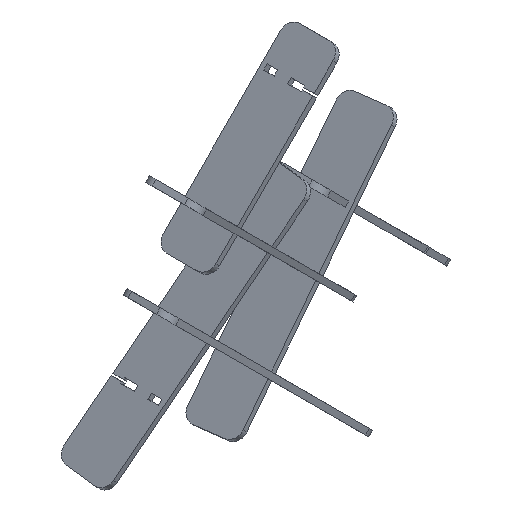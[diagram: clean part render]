
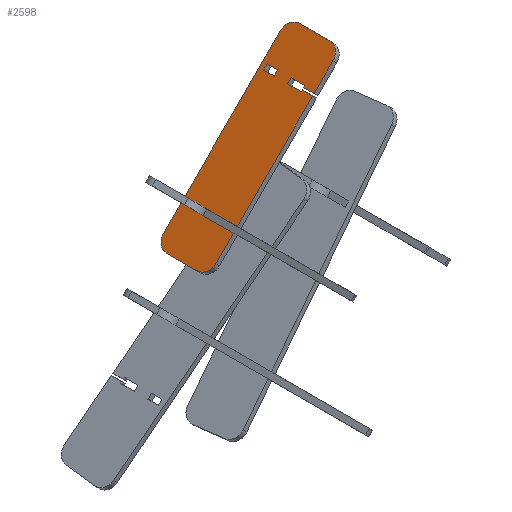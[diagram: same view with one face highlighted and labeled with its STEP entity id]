
A CAD part, isometric view. The second image highlights one B-rep face of the part: STEP entity #2598.
In plain terms, the highlighted planar face has unit normal (-0.707, 0, 0.707) as drawn and (0, 0, 1) by its records, which use the part's own axes.
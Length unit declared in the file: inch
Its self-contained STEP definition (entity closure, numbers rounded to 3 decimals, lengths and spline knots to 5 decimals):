
#61=FACE_BOUND('',#443,.T.);
#62=FACE_BOUND('',#444,.T.);
#176=PLANE('',#2824);
#302=FACE_OUTER_BOUND('',#442,.T.);
#442=EDGE_LOOP('',(#2429,#2430,#2431,#2432,#2433,#2434,#2435,#2436,#2437,
#2438,#2439,#2440,#2441,#2442,#2443,#2444,#2445,#2446,#2447,#2448,#2449,
#2450,#2451,#2452));
#443=EDGE_LOOP('',(#2453,#2454,#2455,#2456));
#444=EDGE_LOOP('',(#2457,#2458,#2459,#2460));
#723=LINE('',#4096,#1059);
#729=LINE('',#4111,#1065);
#732=LINE('',#4119,#1068);
#734=LINE('',#4124,#1070);
#736=LINE('',#4128,#1072);
#738=LINE('',#4132,#1074);
#740=LINE('',#4135,#1076);
#742=LINE('',#4140,#1078);
#744=LINE('',#4144,#1080);
#746=LINE('',#4148,#1082);
#748=LINE('',#4151,#1084);
#750=LINE('',#4156,#1086);
#752=LINE('',#4160,#1088);
#754=LINE('',#4164,#1090);
#756=LINE('',#4167,#1092);
#757=LINE('',#4169,#1093);
#758=LINE('',#4172,#1094);
#760=LINE('',#4176,#1096);
#762=LINE('',#4180,#1098);
#764=LINE('',#4184,#1100);
#766=LINE('',#4188,#1102);
#768=LINE('',#4192,#1104);
#770=LINE('',#4196,#1106);
#772=LINE('',#4200,#1108);
#774=LINE('',#4204,#1110);
#776=LINE('',#4208,#1112);
#778=LINE('',#4212,#1114);
#780=LINE('',#4215,#1116);
#1059=VECTOR('',#3349,0.3937);
#1065=VECTOR('',#3365,0.3937);
#1068=VECTOR('',#3374,0.3937);
#1070=VECTOR('',#3378,0.3937);
#1072=VECTOR('',#3382,0.3937);
#1074=VECTOR('',#3386,0.3937);
#1076=VECTOR('',#3390,0.3937);
#1078=VECTOR('',#3394,0.3937);
#1080=VECTOR('',#3398,0.3937);
#1082=VECTOR('',#3402,0.3937);
#1084=VECTOR('',#3406,0.3937);
#1086=VECTOR('',#3410,0.3937);
#1088=VECTOR('',#3414,0.3937);
#1090=VECTOR('',#3418,0.3937);
#1092=VECTOR('',#3422,0.3937);
#1093=VECTOR('',#3425,0.3937);
#1094=VECTOR('',#3428,0.3937);
#1096=VECTOR('',#3432,0.3937);
#1098=VECTOR('',#3436,0.3937);
#1100=VECTOR('',#3440,0.3937);
#1102=VECTOR('',#3444,0.3937);
#1104=VECTOR('',#3448,0.3937);
#1106=VECTOR('',#3452,0.3937);
#1108=VECTOR('',#3456,0.3937);
#1110=VECTOR('',#3460,0.3937);
#1112=VECTOR('',#3464,0.3937);
#1114=VECTOR('',#3468,0.3937);
#1116=VECTOR('',#3472,0.3937);
#1133=CIRCLE('',#2784,1.);
#1138=CIRCLE('',#2792,1.);
#1139=CIRCLE('',#2794,1.);
#1140=CIRCLE('',#2797,1.);
#1317=VERTEX_POINT('',#4024);
#1318=VERTEX_POINT('',#4025);
#1351=VERTEX_POINT('',#4095);
#1352=VERTEX_POINT('',#4099);
#1353=VERTEX_POINT('',#4103);
#1354=VERTEX_POINT('',#4104);
#1355=VERTEX_POINT('',#4109);
#1356=VERTEX_POINT('',#4113);
#1357=VERTEX_POINT('',#4114);
#1358=VERTEX_POINT('',#4121);
#1359=VERTEX_POINT('',#4123);
#1360=VERTEX_POINT('',#4127);
#1361=VERTEX_POINT('',#4131);
#1362=VERTEX_POINT('',#4137);
#1363=VERTEX_POINT('',#4139);
#1364=VERTEX_POINT('',#4143);
#1365=VERTEX_POINT('',#4147);
#1366=VERTEX_POINT('',#4153);
#1367=VERTEX_POINT('',#4155);
#1368=VERTEX_POINT('',#4159);
#1369=VERTEX_POINT('',#4163);
#1370=VERTEX_POINT('',#4171);
#1371=VERTEX_POINT('',#4175);
#1372=VERTEX_POINT('',#4179);
#1373=VERTEX_POINT('',#4183);
#1374=VERTEX_POINT('',#4187);
#1375=VERTEX_POINT('',#4191);
#1376=VERTEX_POINT('',#4195);
#1377=VERTEX_POINT('',#4199);
#1378=VERTEX_POINT('',#4203);
#1379=VERTEX_POINT('',#4207);
#1380=VERTEX_POINT('',#4211);
#1645=EDGE_CURVE('',#1317,#1318,#1133,.T.);
#1680=EDGE_CURVE('',#1351,#1318,#723,.T.);
#1682=EDGE_CURVE('',#1351,#1352,#1138,.T.);
#1684=EDGE_CURVE('',#1353,#1354,#1139,.T.);
#1688=EDGE_CURVE('',#1353,#1355,#729,.T.);
#1689=EDGE_CURVE('',#1356,#1357,#1140,.T.);
#1692=EDGE_CURVE('',#1317,#1357,#732,.T.);
#1694=EDGE_CURVE('',#1359,#1358,#734,.T.);
#1696=EDGE_CURVE('',#1360,#1359,#736,.T.);
#1698=EDGE_CURVE('',#1361,#1360,#738,.T.);
#1700=EDGE_CURVE('',#1358,#1361,#740,.T.);
#1702=EDGE_CURVE('',#1363,#1362,#742,.T.);
#1704=EDGE_CURVE('',#1364,#1363,#744,.T.);
#1706=EDGE_CURVE('',#1365,#1364,#746,.T.);
#1708=EDGE_CURVE('',#1362,#1365,#748,.T.);
#1710=EDGE_CURVE('',#1367,#1366,#750,.T.);
#1712=EDGE_CURVE('',#1368,#1367,#752,.T.);
#1714=EDGE_CURVE('',#1369,#1368,#754,.T.);
#1716=EDGE_CURVE('',#1355,#1369,#756,.T.);
#1717=EDGE_CURVE('',#1356,#1354,#757,.T.);
#1718=EDGE_CURVE('',#1370,#1352,#758,.T.);
#1720=EDGE_CURVE('',#1371,#1370,#760,.T.);
#1722=EDGE_CURVE('',#1372,#1371,#762,.T.);
#1724=EDGE_CURVE('',#1373,#1372,#764,.T.);
#1726=EDGE_CURVE('',#1374,#1373,#766,.T.);
#1728=EDGE_CURVE('',#1375,#1374,#768,.T.);
#1730=EDGE_CURVE('',#1376,#1375,#770,.T.);
#1732=EDGE_CURVE('',#1377,#1376,#772,.T.);
#1734=EDGE_CURVE('',#1378,#1377,#774,.T.);
#1736=EDGE_CURVE('',#1379,#1378,#776,.T.);
#1738=EDGE_CURVE('',#1380,#1379,#778,.T.);
#1740=EDGE_CURVE('',#1366,#1380,#780,.T.);
#2429=ORIENTED_EDGE('',*,*,#1645,.F.);
#2430=ORIENTED_EDGE('',*,*,#1692,.T.);
#2431=ORIENTED_EDGE('',*,*,#1689,.F.);
#2432=ORIENTED_EDGE('',*,*,#1717,.T.);
#2433=ORIENTED_EDGE('',*,*,#1684,.F.);
#2434=ORIENTED_EDGE('',*,*,#1688,.T.);
#2435=ORIENTED_EDGE('',*,*,#1716,.T.);
#2436=ORIENTED_EDGE('',*,*,#1714,.T.);
#2437=ORIENTED_EDGE('',*,*,#1712,.T.);
#2438=ORIENTED_EDGE('',*,*,#1710,.T.);
#2439=ORIENTED_EDGE('',*,*,#1740,.T.);
#2440=ORIENTED_EDGE('',*,*,#1738,.T.);
#2441=ORIENTED_EDGE('',*,*,#1736,.T.);
#2442=ORIENTED_EDGE('',*,*,#1734,.T.);
#2443=ORIENTED_EDGE('',*,*,#1732,.T.);
#2444=ORIENTED_EDGE('',*,*,#1730,.T.);
#2445=ORIENTED_EDGE('',*,*,#1728,.T.);
#2446=ORIENTED_EDGE('',*,*,#1726,.T.);
#2447=ORIENTED_EDGE('',*,*,#1724,.T.);
#2448=ORIENTED_EDGE('',*,*,#1722,.T.);
#2449=ORIENTED_EDGE('',*,*,#1720,.T.);
#2450=ORIENTED_EDGE('',*,*,#1718,.T.);
#2451=ORIENTED_EDGE('',*,*,#1682,.F.);
#2452=ORIENTED_EDGE('',*,*,#1680,.T.);
#2453=ORIENTED_EDGE('',*,*,#1708,.T.);
#2454=ORIENTED_EDGE('',*,*,#1706,.T.);
#2455=ORIENTED_EDGE('',*,*,#1704,.T.);
#2456=ORIENTED_EDGE('',*,*,#1702,.T.);
#2457=ORIENTED_EDGE('',*,*,#1700,.T.);
#2458=ORIENTED_EDGE('',*,*,#1698,.T.);
#2459=ORIENTED_EDGE('',*,*,#1696,.T.);
#2460=ORIENTED_EDGE('',*,*,#1694,.T.);
#2598=ADVANCED_FACE('',(#302,#61,#62),#176,.T.);
#2784=AXIS2_PLACEMENT_3D('',#4026,#3305,#3306);
#2792=AXIS2_PLACEMENT_3D('',#4100,#3353,#3354);
#2794=AXIS2_PLACEMENT_3D('',#4105,#3358,#3359);
#2797=AXIS2_PLACEMENT_3D('',#4115,#3368,#3369);
#2824=AXIS2_PLACEMENT_3D('',#4216,#3473,#3474);
#3305=DIRECTION('center_axis',(0.,0.,-1.));
#3306=DIRECTION('ref_axis',(0.707,0.707,0.));
#3349=DIRECTION('',(0.,1.,0.));
#3353=DIRECTION('center_axis',(0.,0.,-1.));
#3354=DIRECTION('ref_axis',(0.707,-0.707,0.));
#3358=DIRECTION('center_axis',(0.,0.,-1.));
#3359=DIRECTION('ref_axis',(-0.707,-0.707,0.));
#3365=DIRECTION('',(1.,0.,0.));
#3368=DIRECTION('center_axis',(0.,0.,-1.));
#3369=DIRECTION('ref_axis',(-0.707,0.707,0.));
#3374=DIRECTION('',(-1.,0.,0.));
#3378=DIRECTION('',(0.,-1.,0.));
#3382=DIRECTION('',(1.,0.,0.));
#3386=DIRECTION('',(0.,1.,0.));
#3390=DIRECTION('',(-1.,0.,0.));
#3394=DIRECTION('',(0.,-1.,0.));
#3398=DIRECTION('',(1.,0.,0.));
#3402=DIRECTION('',(0.,1.,0.));
#3406=DIRECTION('',(-1.,0.,0.));
#3410=DIRECTION('',(1.,0.,0.));
#3414=DIRECTION('',(0.,1.,0.));
#3418=DIRECTION('',(-1.,0.,0.));
#3422=DIRECTION('',(0.,1.,0.));
#3425=DIRECTION('',(0.,-1.,0.));
#3428=DIRECTION('',(1.,0.,0.));
#3432=DIRECTION('',(0.,-1.,0.));
#3436=DIRECTION('',(-1.,0.,0.));
#3440=DIRECTION('',(0.,-1.,0.));
#3444=DIRECTION('',(1.,0.,0.));
#3448=DIRECTION('',(0.,1.,0.));
#3452=DIRECTION('',(-1.,0.,0.));
#3456=DIRECTION('',(0.,1.,0.));
#3460=DIRECTION('',(1.,0.,0.));
#3464=DIRECTION('',(0.,-1.,0.));
#3468=DIRECTION('',(-1.,0.,0.));
#3472=DIRECTION('',(0.,-1.,0.));
#3473=DIRECTION('center_axis',(0.,0.,1.));
#3474=DIRECTION('ref_axis',(1.,0.,0.));
#4024=CARTESIAN_POINT('',(16.,4.75,0.48));
#4025=CARTESIAN_POINT('',(17.,3.75,0.48));
#4026=CARTESIAN_POINT('Origin',(16.,3.75,0.48));
#4095=CARTESIAN_POINT('',(17.,1.,0.48));
#4096=CARTESIAN_POINT('',(17.,0.,0.48));
#4099=CARTESIAN_POINT('',(16.,0.,0.48));
#4100=CARTESIAN_POINT('Origin',(16.,1.,0.48));
#4103=CARTESIAN_POINT('',(1.,0.,0.48));
#4104=CARTESIAN_POINT('',(0.,1.,0.48));
#4105=CARTESIAN_POINT('Origin',(1.,1.,0.48));
#4109=CARTESIAN_POINT('',(3.41138,0.,0.48));
#4111=CARTESIAN_POINT('',(0.,0.,0.48));
#4113=CARTESIAN_POINT('',(0.,3.75,0.48));
#4114=CARTESIAN_POINT('',(1.,4.75,0.48));
#4115=CARTESIAN_POINT('Origin',(1.,3.75,0.48));
#4119=CARTESIAN_POINT('',(17.,4.75,0.48));
#4121=CARTESIAN_POINT('',(3.73142,3.4,0.48));
#4123=CARTESIAN_POINT('',(3.73142,4.34,0.48));
#4124=CARTESIAN_POINT('',(3.73142,4.34,0.48));
#4127=CARTESIAN_POINT('',(3.27138,4.34,0.48));
#4128=CARTESIAN_POINT('',(3.27138,4.34,0.48));
#4131=CARTESIAN_POINT('',(3.27138,3.4,0.48));
#4132=CARTESIAN_POINT('',(3.27138,3.4,0.48));
#4135=CARTESIAN_POINT('',(3.73142,3.4,0.48));
#4137=CARTESIAN_POINT('',(13.72862,3.4,0.48));
#4139=CARTESIAN_POINT('',(13.72862,4.34,0.48));
#4140=CARTESIAN_POINT('',(13.72862,4.34,0.48));
#4143=CARTESIAN_POINT('',(13.26858,4.34,0.48));
#4144=CARTESIAN_POINT('',(13.26858,4.34,0.48));
#4147=CARTESIAN_POINT('',(13.26858,3.4,0.48));
#4148=CARTESIAN_POINT('',(13.26858,3.4,0.48));
#4151=CARTESIAN_POINT('',(13.72862,3.4,0.48));
#4153=CARTESIAN_POINT('',(3.73142,2.17002,0.48));
#4155=CARTESIAN_POINT('',(3.27138,2.17002,0.48));
#4156=CARTESIAN_POINT('',(3.27138,2.17002,0.48));
#4159=CARTESIAN_POINT('',(3.27138,0.94,0.48));
#4160=CARTESIAN_POINT('',(3.27138,0.94,0.48));
#4163=CARTESIAN_POINT('',(3.41138,0.94,0.48));
#4164=CARTESIAN_POINT('',(3.41138,0.94,0.48));
#4167=CARTESIAN_POINT('',(3.41138,0.,0.48));
#4169=CARTESIAN_POINT('',(0.,4.75,0.48));
#4171=CARTESIAN_POINT('',(13.58862,0.,0.48));
#4172=CARTESIAN_POINT('',(13.58862,0.,0.48));
#4175=CARTESIAN_POINT('',(13.58862,0.94,0.48));
#4176=CARTESIAN_POINT('',(13.58862,0.94,0.48));
#4179=CARTESIAN_POINT('',(13.72862,0.94,0.48));
#4180=CARTESIAN_POINT('',(13.72862,0.94,0.48));
#4183=CARTESIAN_POINT('',(13.72862,2.17002,0.48));
#4184=CARTESIAN_POINT('',(13.72862,2.17002,0.48));
#4187=CARTESIAN_POINT('',(13.26858,2.17002,0.48));
#4188=CARTESIAN_POINT('',(13.26858,2.17002,0.48));
#4191=CARTESIAN_POINT('',(13.26858,0.94,0.48));
#4192=CARTESIAN_POINT('',(13.26858,0.94,0.48));
#4195=CARTESIAN_POINT('',(13.40858,0.94,0.48));
#4196=CARTESIAN_POINT('',(13.40858,0.94,0.48));
#4199=CARTESIAN_POINT('',(13.40858,0.,0.48));
#4200=CARTESIAN_POINT('',(13.40858,0.,0.48));
#4203=CARTESIAN_POINT('',(3.59142,0.,0.48));
#4204=CARTESIAN_POINT('',(3.59142,0.,0.48));
#4207=CARTESIAN_POINT('',(3.59142,0.94,0.48));
#4208=CARTESIAN_POINT('',(3.59142,0.94,0.48));
#4211=CARTESIAN_POINT('',(3.73142,0.94,0.48));
#4212=CARTESIAN_POINT('',(3.73142,0.94,0.48));
#4215=CARTESIAN_POINT('',(3.73142,2.17002,0.48));
#4216=CARTESIAN_POINT('Origin',(8.5,2.375,0.48));
